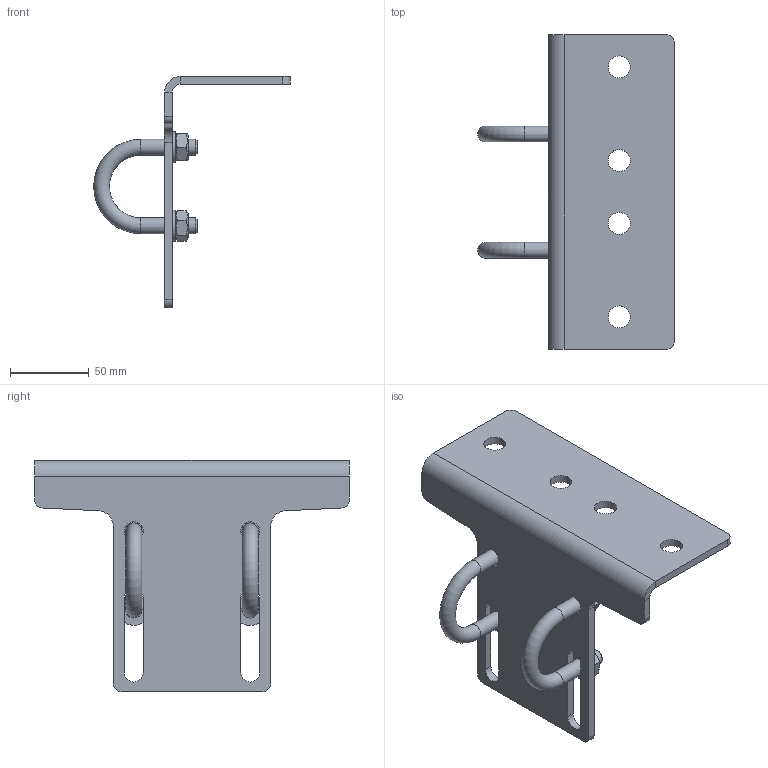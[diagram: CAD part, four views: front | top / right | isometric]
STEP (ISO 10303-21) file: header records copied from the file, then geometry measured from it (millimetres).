
FILE_DESCRIPTION(/* description */ (''),/* implementation_level */ '2;1');
FILE_NAME(/* name */ 'D:\VDV Techniek\Documents\Inventor\_ISP_Products\UDG on Round Tube Kit\Round tube kit original\STP\Round tube 35mm-out-Mounting bracket.stp',/* time_stamp */ '2022-12-29T15:04:08+01:00',/* author */ ('jos'),/* organization */ (''),/* preprocessor_version */ 'ST-DEVELOPER v15.2',/* originating_system */ 'Autodesk Inventor 2014',/* authorisation */ '');
FILE_SCHEMA (('AUTOMOTIVE_DESIGN { 1 0 10303 214 3 1 1 }'));
Length unit declared in the file: millimetre
Products named in the file (5): UDG_Mounting_Bracket_universal_HDG; Krambeugel 38mm; DIN 125 - A 10,5; DIN 934 - M10 x 1,5; Round tube 35mm-out-Mounting bracket
Assembly tree (11 placements, depth 2):
  Round tube 35mm-out-Mounting bracket
    UDG_Mounting_Bracket_universal_HDG
    Krambeugel 38mm  x2
    DIN 125 - A 10,5  x4
    DIN 934 - M10 x 1,5  x4
Bounding box: 124.99 x 200 x 147 mm (x, y, z)
Volume: 181225.1 mm3; surface area: 82818.3 mm2
Topology: 11 solids, 11 shells, 122 faces, 272 edges, 172 vertices
Faces by surface type: plane 64, cylinder 36, cone 20, torus 2
Full cylindrical faces by diameter (mm): 8.376 x4, 10 x4, 10.5 x4, 12 x2, 14 x4, 20 x4
Entity records: 1959 total; most frequent: DIRECTION 338, CARTESIAN_POINT 334, ORIENTED_EDGE 268, AXIS2_PLACEMENT_3D 136, EDGE_CURVE 134, EDGE_LOOP 102, VERTEX_POINT 96, LINE 66
